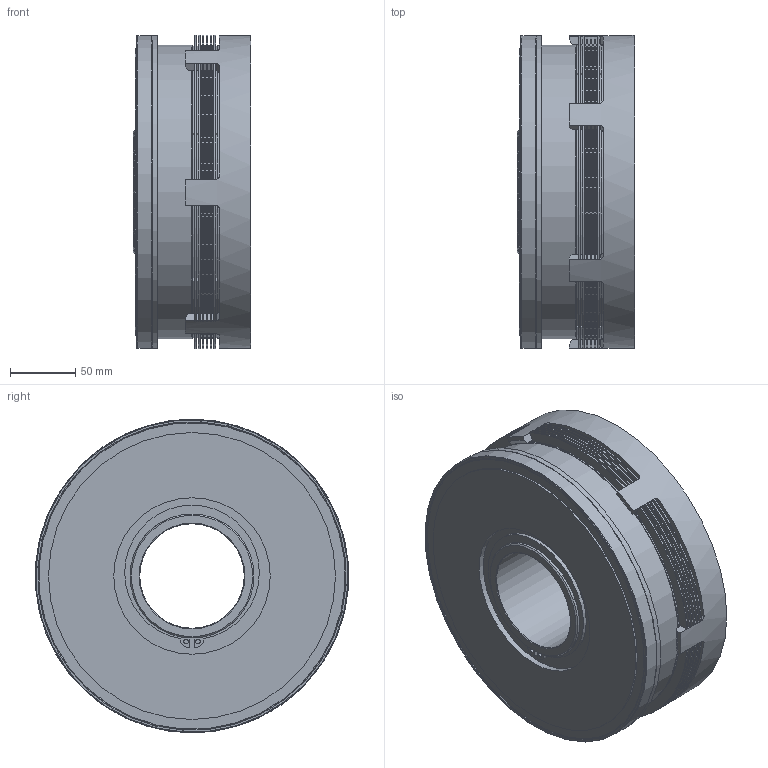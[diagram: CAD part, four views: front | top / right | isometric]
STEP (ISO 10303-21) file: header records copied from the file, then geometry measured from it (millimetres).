
FILE_DESCRIPTION(/* description */ (''),/* implementation_level */ '2;1');
FILE_NAME(/* name */ 'X:\INVENTOR\DISEGNI\05_Friz_Elettmag-Lam\05_03 EC_C\05_03_240_01 EC240_C\05_03_240_01 EC240_C@STEP.stp',/* time_stamp */ '2023-03-09T09:32:57+01:00',/* author */ ('alessio'),/* organization */ (''),/* preprocessor_version */ 'ST-DEVELOPER v18.1',/* originating_system */ 'Autodesk Inventor 2021',/* authorisation */ '');
FILE_SCHEMA (('AUTOMOTIVE_DESIGN { 1 0 10303 214 3 1 1 }'));
Products named in the file (1): 05_03_240_01 EC240_C
Bounding box: 90 x 240 x 240.5 mm (x, y, z)
Volume: 2950144.2 mm3; surface area: 1016812.4 mm2
Topology: 7 solids, 11 shells, 4619 faces, 15371 edges, 10190 vertices
Faces by surface type: cylinder 3957, plane 560, cone 100, torus 2
Full cylindrical faces by diameter (mm): 3.5 x2, 9 x1, 80 x1, 90 x1, 91.5 x1, 95 x1, 120 x1, 140 x1, 162 x1, 165 x1, 191 x1, 192 x1, 220 x1, 224 x1, 225 x2, 227 x1, 240 x4
Entity records: 179973 total; most frequent: DIRECTION 34092, CARTESIAN_POINT 30796, ORIENTED_EDGE 30740, EDGE_CURVE 15370, AXIS2_PLACEMENT_3D 14291, VERTEX_POINT 10190, CIRCLE 9647, LINE 5510
